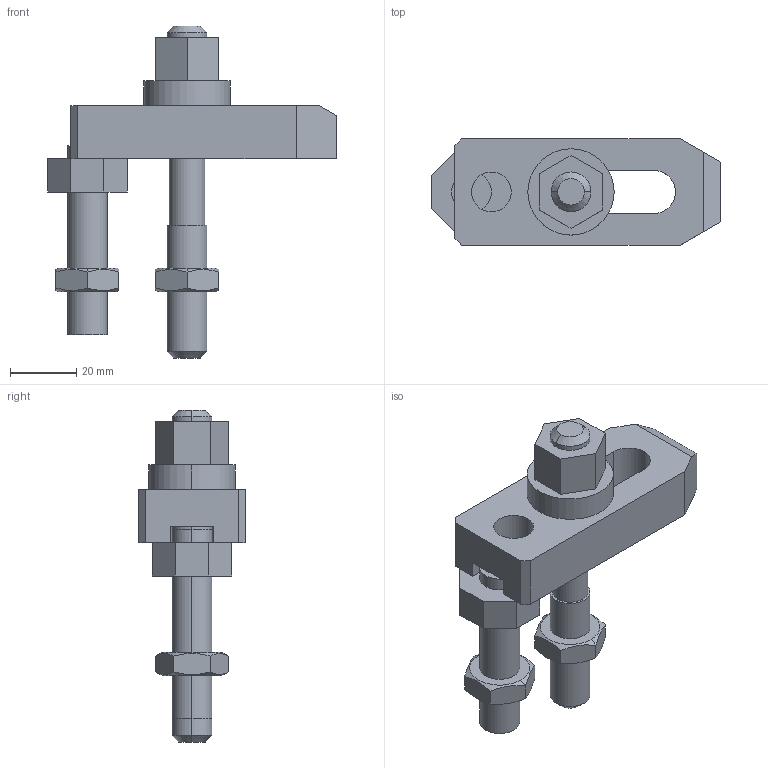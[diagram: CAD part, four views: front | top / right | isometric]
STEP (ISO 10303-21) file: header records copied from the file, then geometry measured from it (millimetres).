
FILE_DESCRIPTION (( 'STEP AP203' ), '1' );
FILE_NAME ('bj153-12080a1.STEP', '2021-10-25T01:12:48', ( '' ), ( '' ), 'SwSTEP 2.0', 'SolidWorks 2020', '' );
FILE_SCHEMA (( 'CONFIG_CONTROL_DESIGN' ));
Length unit declared in the file: millimetre
Products named in the file (7): bj153-12080a1_06; bj153-12080a1_02; bj153-12080a1_03; bj153-12080a1; bj153-12080a1_05; bj153-12080a1_01; bj153-12080a1_04
Assembly tree (6 placements, depth 2):
  bj153-12080a1
    bj153-12080a1_01
    bj153-12080a1_02
    bj153-12080a1_03
    bj153-12080a1_04
    bj153-12080a1_05
    bj153-12080a1_06
Bounding box: 87 x 32 x 100 mm (x, y, z)
Volume: 58111.6 mm3; surface area: 21770.1 mm2
Topology: 6 solids, 6 shells, 90 faces, 210 edges, 136 vertices
Faces by surface type: plane 55, cylinder 23, cone 12
Entity records: 3525 total; most frequent: CARTESIAN_POINT 701, DIRECTION 442, ORIENTED_EDGE 420, EDGE_CURVE 210, AXIS2_PLACEMENT_3D 157, VERTEX_POINT 136, VECTOR 128, LINE 128
